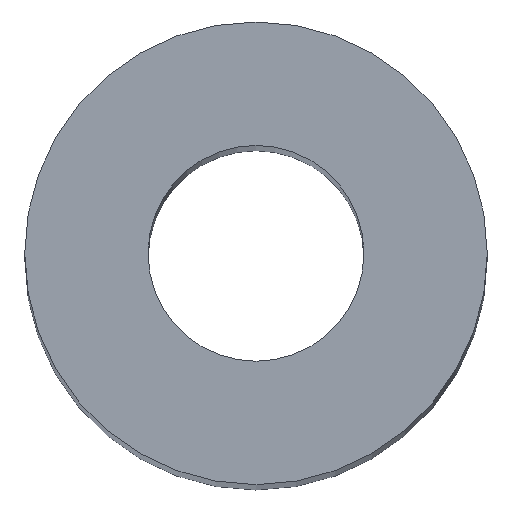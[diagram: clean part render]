
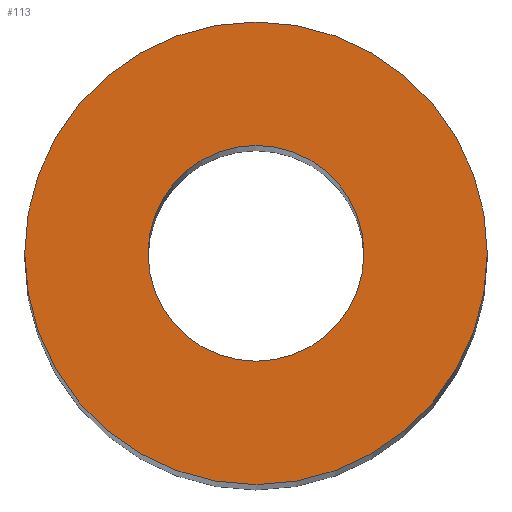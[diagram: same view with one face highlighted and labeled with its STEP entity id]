
A CAD part, top view. The second image highlights one B-rep face of the part: STEP entity #113.
In plain terms, the highlighted planar face has unit normal (0, 0, 1).
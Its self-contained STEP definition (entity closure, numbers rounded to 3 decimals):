
#113=ADVANCED_FACE('',(#121,#122),#119,.T.);
#119=PLANE('',#190);
#121=FACE_BOUND('',#125,.T.);
#122=FACE_BOUND('',#126,.T.);
#125=EDGE_LOOP('',(#133,#134));
#126=EDGE_LOOP('',(#135,#136));
#133=ORIENTED_EDGE('',*,*,#165,.T.);
#134=ORIENTED_EDGE('',*,*,#166,.T.);
#135=ORIENTED_EDGE('',*,*,#167,.F.);
#136=ORIENTED_EDGE('',*,*,#168,.F.);
#157=VERTEX_POINT('',#236);
#158=VERTEX_POINT('',#237);
#159=VERTEX_POINT('',#240);
#160=VERTEX_POINT('',#241);
#165=EDGE_CURVE('',#157,#158,#177,.T.);
#166=EDGE_CURVE('',#158,#157,#178,.T.);
#167=EDGE_CURVE('',#159,#160,#179,.T.);
#168=EDGE_CURVE('',#160,#159,#180,.T.);
#177=CIRCLE('',#186,15.);
#178=CIRCLE('',#187,15.);
#179=CIRCLE('',#188,7.);
#180=CIRCLE('',#189,7.);
#186=AXIS2_PLACEMENT_3D('',#235,#202,#203);
#187=AXIS2_PLACEMENT_3D('',#238,#204,#205);
#188=AXIS2_PLACEMENT_3D('',#239,#206,#207);
#189=AXIS2_PLACEMENT_3D('',#242,#208,#209);
#190=AXIS2_PLACEMENT_3D('',#243,#210,#211);
#202=DIRECTION('',(0.,0.,1.));
#203=DIRECTION('',(0.,1.,0.));
#204=DIRECTION('',(0.,0.,1.));
#205=DIRECTION('',(0.,-1.,0.));
#206=DIRECTION('',(0.,0.,1.));
#207=DIRECTION('',(0.,-1.,0.));
#208=DIRECTION('',(0.,0.,1.));
#209=DIRECTION('',(0.,1.,0.));
#210=DIRECTION('',(0.,0.,1.));
#211=DIRECTION('',(0.,1.,0.));
#235=CARTESIAN_POINT('',(0.,0.,200.));
#236=CARTESIAN_POINT('',(-15.,0.,200.));
#237=CARTESIAN_POINT('',(15.,0.,200.));
#238=CARTESIAN_POINT('',(0.,0.,200.));
#239=CARTESIAN_POINT('',(0.,0.,200.));
#240=CARTESIAN_POINT('',(7.,0.,200.));
#241=CARTESIAN_POINT('',(-7.,0.,200.));
#242=CARTESIAN_POINT('',(0.,0.,200.));
#243=CARTESIAN_POINT('',(0.,0.,200.));
